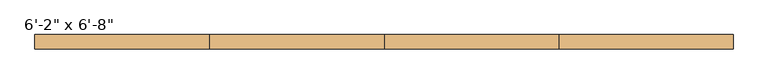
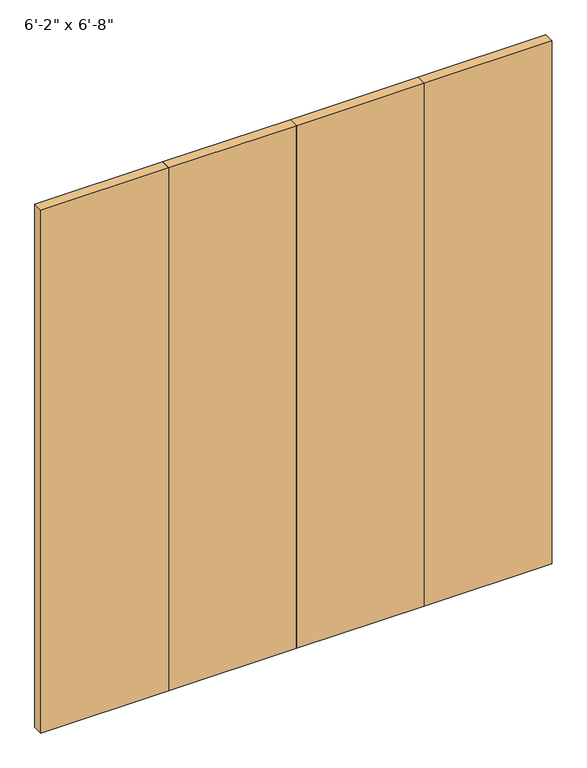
"""IFC4 building model written with IfcOpenShell, lengths in millimetres: door geometry."""

from ifc_helpers import new_model, si_unit, origin, origin_with_axes, place, context, project, spatial, polyline, outline, extrude, source, transform, mapped, element, save


def door_8a18af58(model_context):
    return source(origin(), model_context, "Body", "SweptSolid", [
        extrude(outline(polyline([(-939.8, 57.15), (-469.9, 57.15), (-469.9, 19.05), (-939.8, 19.05), (-939.8, 57.15)])), origin_with_axes(), (0.0, 0.0, 1.0), 2032.0),
        extrude(outline(polyline([(-469.9, 57.15), (0.0, 57.15), (0.0, 19.05), (-469.9, 19.05), (-469.9, 57.15)])), origin_with_axes(), (0.0, 0.0, 1.0), 2032.0),
        extrude(outline(polyline([(0.0, 57.15), (469.9, 57.15), (469.9, 19.05), (0.0, 19.05), (0.0, 57.15)])), origin_with_axes(), (0.0, 0.0, 1.0), 2032.0),
        extrude(outline(polyline([(469.9, 57.15), (939.8, 57.15), (939.8, 19.05), (469.9, 19.05), (469.9, 57.15)])), origin_with_axes(), (0.0, 0.0, 1.0), 2032.0),
    ])


if __name__ == "__main__":
    model = new_model("IFC4")
    model_context = context("Model", 3, world=origin())
    ifc_project = project(units=[si_unit("LENGTHUNIT", "METRE", prefix="MILLI")], contexts=[model_context])
    site = spatial("IfcSite", under=ifc_project)
    building = spatial("IfcBuilding", under=site)
    placement = place(None, origin())
    door_shape = door_8a18af58(model_context)
    element("IfcDoor", 1, ObjectType="Planitar - Bifold Door : 6'-2\" x 6'-8\"", at=placement, inside=building, context=model_context, shape_type="MappedRepresentation", body=[
        mapped(door_shape, transform((0.0, 0.0, 0.0), x_axis=(1.0, 0.0, 0.0), y_axis=(0.0, 1.0, 0.0), z_axis=(0.0, 0.0, 1.0))),
    ])
    save(model, "model.ifc")
